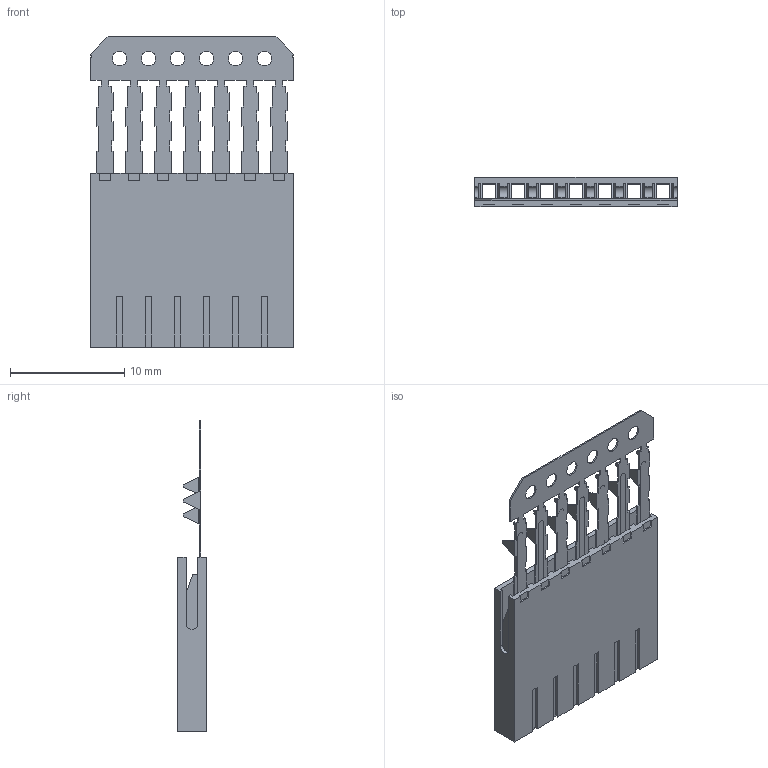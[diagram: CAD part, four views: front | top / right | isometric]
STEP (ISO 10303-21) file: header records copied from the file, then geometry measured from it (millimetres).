
FILE_DESCRIPTION((''),'2;1');
FILE_NAME('015388078','2016-11-30T',('rlalsangi'),(''),'PRO/ENGINEER BY PARAMETRIC TECHNOLOGY CORPORATION, 2012310','PRO/ENGINEER BY PARAMETRIC TECHNOLOGY CORPORATION, 2012310','');
FILE_SCHEMA(('CONFIG_CONTROL_DESIGN'));
Length unit declared in the file: inch
Products named in the file (1): 015388078
Bounding box: 17.75 x 2.51 x 27.18 mm (x, y, z)
Volume: 396.4 mm3; surface area: 1908.3 mm2
Topology: 1 solids, 1 shells, 622 faces, 1842 edges, 1209 vertices
Faces by surface type: plane 547, cylinder 75
Entity records: 20605 total; most frequent: CARTESIAN_POINT 3814, ORIENTED_EDGE 3666, DIRECTION 3156, EDGE_CURVE 1833, VECTOR 1692, LINE 1692, VERTEX_POINT 1194, AXIS2_PLACEMENT_3D 732
